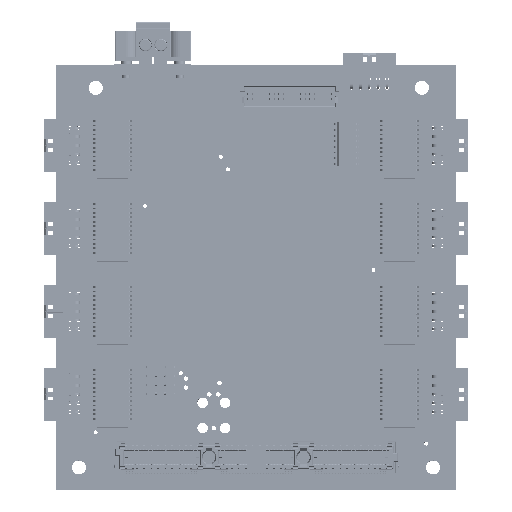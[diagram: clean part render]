
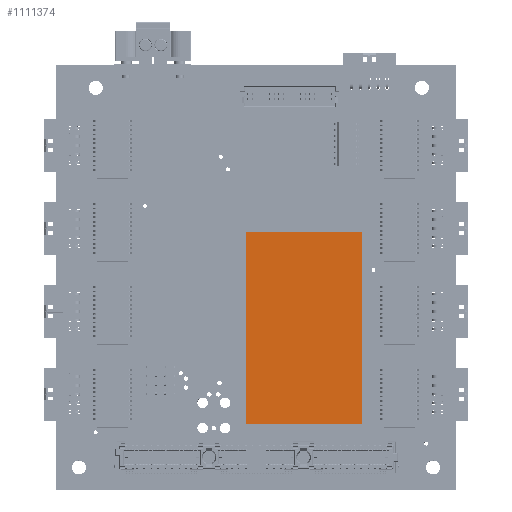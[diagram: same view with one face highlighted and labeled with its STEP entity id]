
A CAD part, top view. The second image highlights one B-rep face of the part: STEP entity #1111374.
In plain terms, the highlighted planar face has unit normal (0, 0, 1) as drawn and (0, 1, 0) by its records, which use the part's own axes.
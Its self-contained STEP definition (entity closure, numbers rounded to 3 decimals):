
#1111261 = VERTEX_POINT('',#1111262);
#1111262 = CARTESIAN_POINT('',(21.6,11.25,-13.125));
#1111269 = PLANE('',#1111270);
#1111270 = AXIS2_PLACEMENT_3D('',#1111271,#1111272,#1111273);
#1111271 = CARTESIAN_POINT('',(13.125,5.75,13.125));
#1111272 = DIRECTION('',(-0.544,0.839,0.));
#1111273 = DIRECTION('',(-0.839,-0.544,0.));
#1111281 = PLANE('',#1111282);
#1111282 = AXIS2_PLACEMENT_3D('',#1111283,#1111284,#1111285);
#1111283 = CARTESIAN_POINT('',(0.,-2.768,
    -13.125));
#1111284 = DIRECTION('',(0.,0.,1.));
#1111285 = DIRECTION('',(1.,0.,0.));
#1111293 = EDGE_CURVE('',#1111294,#1111261,#1111296,.T.);
#1111294 = VERTEX_POINT('',#1111295);
#1111295 = CARTESIAN_POINT('',(21.6,11.25,13.125));
#1111296 = SURFACE_CURVE('',#1111297,(#1111301,#1111308),.PCURVE_S1.);
#1111297 = LINE('',#1111298,#1111299);
#1111298 = CARTESIAN_POINT('',(21.6,11.25,13.125));
#1111299 = VECTOR('',#1111300,1.);
#1111300 = DIRECTION('',(0.,0.,-1.));
#1111301 = PCURVE('',#1111269,#1111302);
#1111302 = DEFINITIONAL_REPRESENTATION('',(#1111303),#1111307);
#1111303 = LINE('',#1111304,#1111305);
#1111304 = CARTESIAN_POINT('',(-10.103,0.));
#1111305 = VECTOR('',#1111306,1.);
#1111306 = DIRECTION('',(0.,-1.));
#1111307 = ( GEOMETRIC_REPRESENTATION_CONTEXT(2) 
PARAMETRIC_REPRESENTATION_CONTEXT() REPRESENTATION_CONTEXT('2D SPACE',''
  ) );
#1111308 = PCURVE('',#1111309,#1111314);
#1111309 = PLANE('',#1111310);
#1111310 = AXIS2_PLACEMENT_3D('',#1111311,#1111312,#1111313);
#1111311 = CARTESIAN_POINT('',(-21.6,11.25,13.125));
#1111312 = DIRECTION('',(0.,-1.,0.));
#1111313 = DIRECTION('',(0.,0.,-1.));
#1111314 = DEFINITIONAL_REPRESENTATION('',(#1111315),#1111319);
#1111315 = LINE('',#1111316,#1111317);
#1111316 = CARTESIAN_POINT('',(0.,43.2));
#1111317 = VECTOR('',#1111318,1.);
#1111318 = DIRECTION('',(1.,0.));
#1111319 = ( GEOMETRIC_REPRESENTATION_CONTEXT(2) 
PARAMETRIC_REPRESENTATION_CONTEXT() REPRESENTATION_CONTEXT('2D SPACE',''
  ) );
#1111337 = PLANE('',#1111338);
#1111338 = AXIS2_PLACEMENT_3D('',#1111339,#1111340,#1111341);
#1111339 = CARTESIAN_POINT('',(0.,-2.768,13.125
    ));
#1111340 = DIRECTION('',(0.,0.,1.));
#1111341 = DIRECTION('',(1.,0.,0.));
#1111374 = ADVANCED_FACE('',(#1111375),#1111309,.F.);
#1111375 = FACE_BOUND('',#1111376,.T.);
#1111376 = EDGE_LOOP('',(#1111377,#1111400,#1111428,#1111449));
#1111377 = ORIENTED_EDGE('',*,*,#1111378,.T.);
#1111378 = EDGE_CURVE('',#1111261,#1111379,#1111381,.T.);
#1111379 = VERTEX_POINT('',#1111380);
#1111380 = CARTESIAN_POINT('',(-21.6,11.25,-13.125));
#1111381 = SURFACE_CURVE('',#1111382,(#1111386,#1111393),.PCURVE_S1.);
#1111382 = LINE('',#1111383,#1111384);
#1111383 = CARTESIAN_POINT('',(-21.6,11.25,-13.125));
#1111384 = VECTOR('',#1111385,1.);
#1111385 = DIRECTION('',(-1.,0.,0.));
#1111386 = PCURVE('',#1111309,#1111387);
#1111387 = DEFINITIONAL_REPRESENTATION('',(#1111388),#1111392);
#1111388 = LINE('',#1111389,#1111390);
#1111389 = CARTESIAN_POINT('',(26.25,0.));
#1111390 = VECTOR('',#1111391,1.);
#1111391 = DIRECTION('',(0.,-1.));
#1111392 = ( GEOMETRIC_REPRESENTATION_CONTEXT(2) 
PARAMETRIC_REPRESENTATION_CONTEXT() REPRESENTATION_CONTEXT('2D SPACE',''
  ) );
#1111393 = PCURVE('',#1111281,#1111394);
#1111394 = DEFINITIONAL_REPRESENTATION('',(#1111395),#1111399);
#1111395 = LINE('',#1111396,#1111397);
#1111396 = CARTESIAN_POINT('',(-21.6,14.018));
#1111397 = VECTOR('',#1111398,1.);
#1111398 = DIRECTION('',(-1.,0.));
#1111399 = ( GEOMETRIC_REPRESENTATION_CONTEXT(2) 
PARAMETRIC_REPRESENTATION_CONTEXT() REPRESENTATION_CONTEXT('2D SPACE',''
  ) );
#1111400 = ORIENTED_EDGE('',*,*,#1111401,.F.);
#1111401 = EDGE_CURVE('',#1111402,#1111379,#1111404,.T.);
#1111402 = VERTEX_POINT('',#1111403);
#1111403 = CARTESIAN_POINT('',(-21.6,11.25,13.125));
#1111404 = SURFACE_CURVE('',#1111405,(#1111409,#1111416),.PCURVE_S1.);
#1111405 = LINE('',#1111406,#1111407);
#1111406 = CARTESIAN_POINT('',(-21.6,11.25,13.125));
#1111407 = VECTOR('',#1111408,1.);
#1111408 = DIRECTION('',(0.,0.,-1.));
#1111409 = PCURVE('',#1111309,#1111410);
#1111410 = DEFINITIONAL_REPRESENTATION('',(#1111411),#1111415);
#1111411 = LINE('',#1111412,#1111413);
#1111412 = CARTESIAN_POINT('',(0.,0.));
#1111413 = VECTOR('',#1111414,1.);
#1111414 = DIRECTION('',(1.,0.));
#1111415 = ( GEOMETRIC_REPRESENTATION_CONTEXT(2) 
PARAMETRIC_REPRESENTATION_CONTEXT() REPRESENTATION_CONTEXT('2D SPACE',''
  ) );
#1111416 = PCURVE('',#1111417,#1111422);
#1111417 = PLANE('',#1111418);
#1111418 = AXIS2_PLACEMENT_3D('',#1111419,#1111420,#1111421);
#1111419 = CARTESIAN_POINT('',(-13.125,5.75,13.125));
#1111420 = DIRECTION('',(0.544,0.839,0.));
#1111421 = DIRECTION('',(-0.839,0.544,0.));
#1111422 = DEFINITIONAL_REPRESENTATION('',(#1111423),#1111427);
#1111423 = LINE('',#1111424,#1111425);
#1111424 = CARTESIAN_POINT('',(10.103,0.));
#1111425 = VECTOR('',#1111426,1.);
#1111426 = DIRECTION('',(0.,-1.));
#1111427 = ( GEOMETRIC_REPRESENTATION_CONTEXT(2) 
PARAMETRIC_REPRESENTATION_CONTEXT() REPRESENTATION_CONTEXT('2D SPACE',''
  ) );
#1111428 = ORIENTED_EDGE('',*,*,#1111429,.F.);
#1111429 = EDGE_CURVE('',#1111294,#1111402,#1111430,.T.);
#1111430 = SURFACE_CURVE('',#1111431,(#1111435,#1111442),.PCURVE_S1.);
#1111431 = LINE('',#1111432,#1111433);
#1111432 = CARTESIAN_POINT('',(-21.6,11.25,13.125));
#1111433 = VECTOR('',#1111434,1.);
#1111434 = DIRECTION('',(-1.,0.,0.));
#1111435 = PCURVE('',#1111309,#1111436);
#1111436 = DEFINITIONAL_REPRESENTATION('',(#1111437),#1111441);
#1111437 = LINE('',#1111438,#1111439);
#1111438 = CARTESIAN_POINT('',(0.,0.));
#1111439 = VECTOR('',#1111440,1.);
#1111440 = DIRECTION('',(0.,-1.));
#1111441 = ( GEOMETRIC_REPRESENTATION_CONTEXT(2) 
PARAMETRIC_REPRESENTATION_CONTEXT() REPRESENTATION_CONTEXT('2D SPACE',''
  ) );
#1111442 = PCURVE('',#1111337,#1111443);
#1111443 = DEFINITIONAL_REPRESENTATION('',(#1111444),#1111448);
#1111444 = LINE('',#1111445,#1111446);
#1111445 = CARTESIAN_POINT('',(-21.6,14.018));
#1111446 = VECTOR('',#1111447,1.);
#1111447 = DIRECTION('',(-1.,0.));
#1111448 = ( GEOMETRIC_REPRESENTATION_CONTEXT(2) 
PARAMETRIC_REPRESENTATION_CONTEXT() REPRESENTATION_CONTEXT('2D SPACE',''
  ) );
#1111449 = ORIENTED_EDGE('',*,*,#1111293,.T.);
